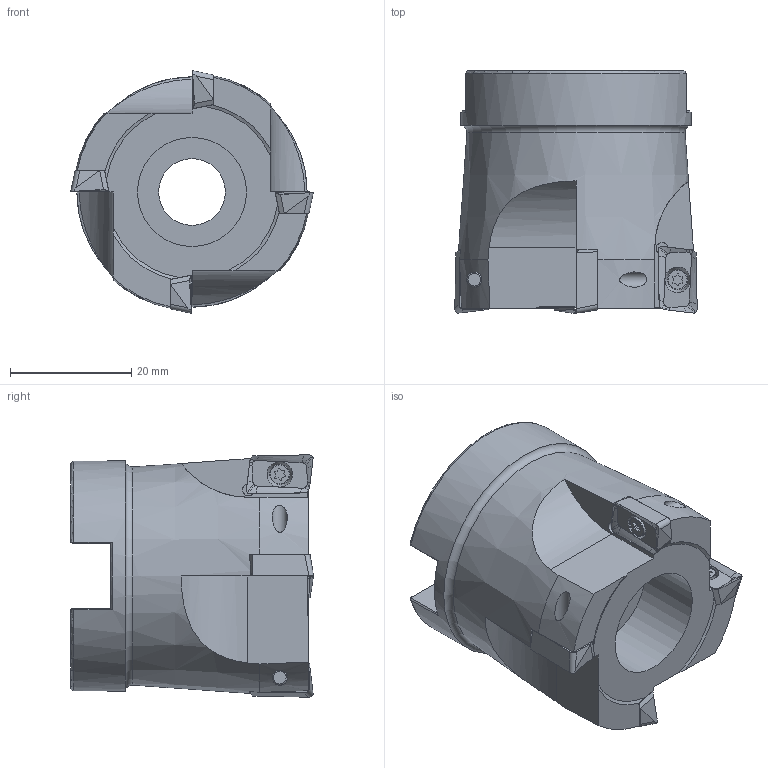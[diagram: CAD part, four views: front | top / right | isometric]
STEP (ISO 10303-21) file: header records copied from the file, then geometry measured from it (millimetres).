
FILE_DESCRIPTION(/* description */ (''),/* implementation_level */ '2;1');
FILE_NAME(/* name */ 'Z:\Проектный отдел\Арина\Фрезы\BAP300R D40 4T-22\BAP300R D40 4T-22.stp',/* time_stamp */ '2023-05-31T14:54:38+03:00',/* author */ ('user'),/* organization */ (''),/* preprocessor_version */ 'ST-DEVELOPER v18',/* originating_system */ 'Autodesk Inventor 2020',/* authorisation */ '');
FILE_SCHEMA (('AUTOMOTIVE_DESIGN { 1 0 10303 214 3 1 1 }'));
Length unit declared in the file: millimetre
Products named in the file (4): BAP300R D40 4T-22; BAP400R-63-22-4T; Напайка; Болт
Assembly tree (9 placements, depth 2):
  BAP300R D40 4T-22
    BAP400R-63-22-4T
    Напайка  x4
    Болт  x4
Bounding box: 40 x 40 x 40 mm (x, y, z)
Volume: 26984 mm3; surface area: 10500.5 mm2
Topology: 9 solids, 9 shells, 329 faces, 920 edges, 614 vertices
Faces by surface type: plane 163, bspline 72, cylinder 64, cone 27, torus 3
Full cylindrical faces by diameter (mm): 2.5 x12, 3.1 x4, 3.3 x4, 11 x1, 18 x1, 22 x1, 38 x1
Entity records: 6200 total; most frequent: CARTESIAN_POINT 1938, ORIENTED_EDGE 892, DIRECTION 792, EDGE_CURVE 446, VERTEX_POINT 299, AXIS2_PLACEMENT_3D 292, LINE 208, VECTOR 208
